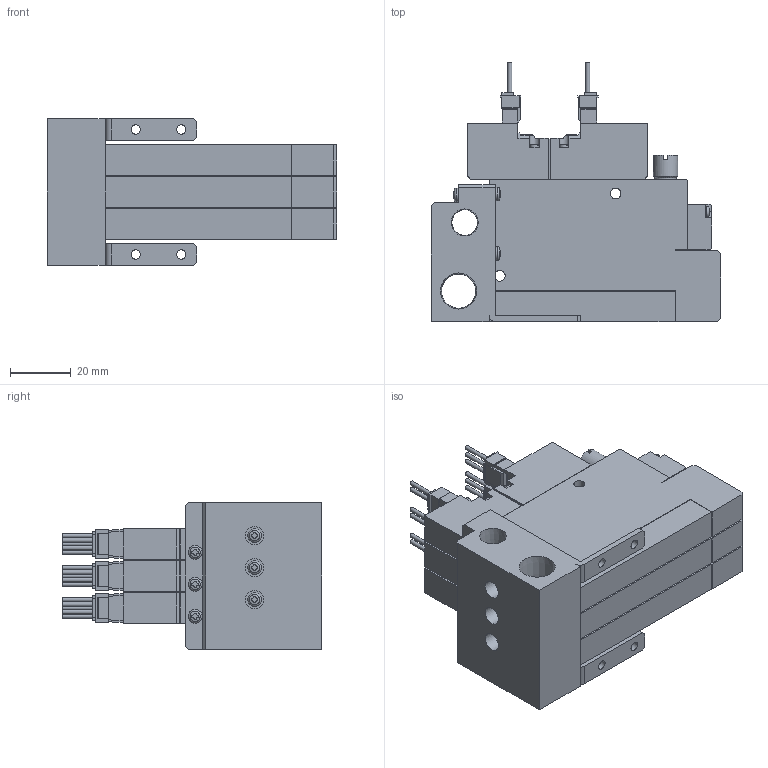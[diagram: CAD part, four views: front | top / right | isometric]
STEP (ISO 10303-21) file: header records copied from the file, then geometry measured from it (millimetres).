
FILE_DESCRIPTION(('STEP AP203'),'1');
FILE_NAME('ZZC5WC303_3D.stp','2024-09-04T09:41:12',(' '),(' '),'Spatial InterOp 3D',' ',' ');
FILE_SCHEMA(('CONFIG_CONTROL_DESIGN'));
Length unit declared in the file: millimetre
Products named in the file (5): BSC1M※※ZZC5WC303; Solenoid valve W; Pressure Sensor ZZ; Unit-C; BaseMC30R
Assembly tree (10 placements, depth 2):
  BSC1M※※ZZC5WC303
    Solenoid valve W  x3
    Pressure Sensor ZZ  x3
    Unit-C  x3
    BaseMC30R
Bounding box: 95 x 85.05 x 48 mm (x, y, z)
Volume: 165224.6 mm3; surface area: 58291 mm2
Topology: 10 solids, 10 shells, 1125 faces, 3012 edges, 1992 vertices
Faces by surface type: plane 851, cylinder 217, cone 25, sphere 16, torus 16
Full cylindrical faces by diameter (mm): 1.4 x15, 2.5 x6, 3 x16, 3.5 x18, 4 x3, 4.134 x6, 4.5 x10, 5.5 x3, 6 x3, 7 x6, 8 x3, 8.422 x1, 11.233 x1
Entity records: 15914 total; most frequent: CARTESIAN_POINT 3443, DIRECTION 2485, ORIENTED_EDGE 2422, EDGE_CURVE 1211, LINE 855, VECTOR 855, VERTEX_POINT 850, AXIS2_PLACEMENT_3D 815
